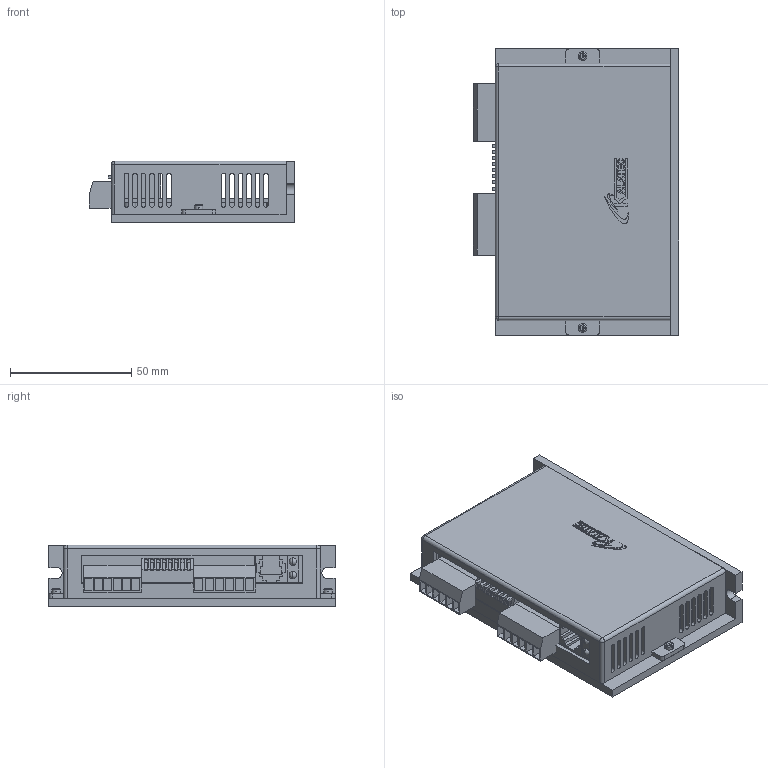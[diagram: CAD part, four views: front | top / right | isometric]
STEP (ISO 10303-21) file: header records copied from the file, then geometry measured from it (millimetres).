
FILE_DESCRIPTION (( 'STEP AP203' ), '1' );
FILE_NAME ('STEPPER DRIVER STR6 - logo.STEP', '2022-05-31T12:46:43', ( '' ), ( '' ), 'SwSTEP 2.0', 'SolidWorks 2019', '' );
FILE_SCHEMA (( 'CONFIG_CONTROL_DESIGN' ));
Length unit declared in the file: millimetre
Products named in the file (1): STEPPER DRIVER STR6 - logo
Bounding box: 84.5 x 118 x 25.5 mm (x, y, z)
Volume: 89099.4 mm3; surface area: 68944.6 mm2
Topology: 16 solids, 16 shells, 569 faces, 1498 edges, 984 vertices
Faces by surface type: plane 442, cylinder 91, bspline 22, torus 8, sphere 6
Entity records: 17731 total; most frequent: CARTESIAN_POINT 3528, ORIENTED_EDGE 2976, DIRECTION 2738, EDGE_CURVE 1488, LINE 1214, VECTOR 1214, VERTEX_POINT 980, AXIS2_PLACEMENT_3D 762
